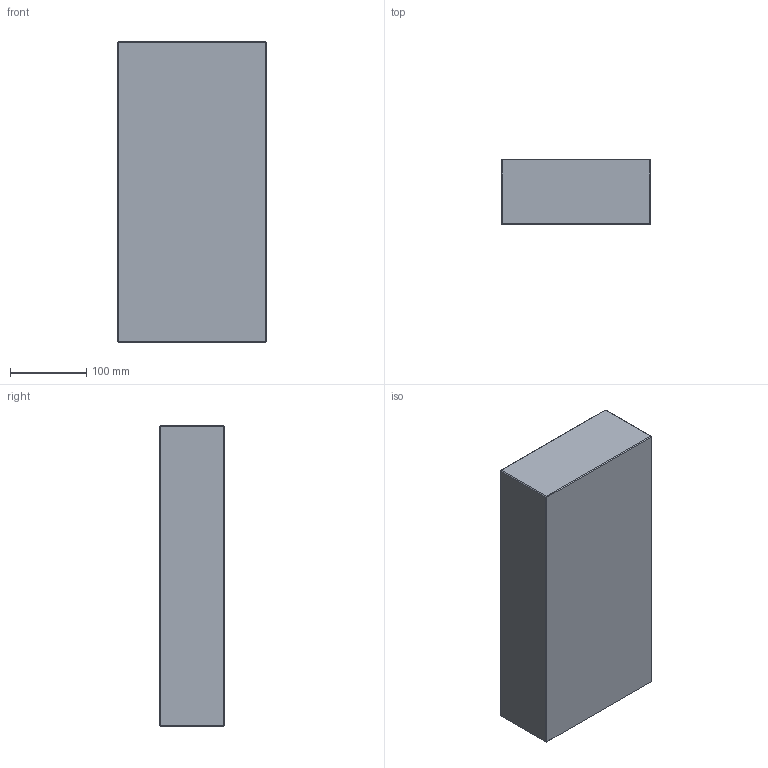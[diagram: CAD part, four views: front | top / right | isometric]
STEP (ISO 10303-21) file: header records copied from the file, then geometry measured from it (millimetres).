
FILE_DESCRIPTION (( 'STEP AP214' ), '1' );
FILE_NAME ('PC-P-196x396x86.STEP', '2020-04-01T08:08:57', ( 'August' ), ( '' ), 'SwSTEP 2.0', 'SolidWorks 2018', '' );
FILE_SCHEMA (( 'AUTOMOTIVE_DESIGN' ));
Length unit declared in the file: millimetre
Products named in the file (1): PC-P-196x396x86
Bounding box: 196 x 86 x 396 mm (x, y, z)
Volume: 6673625.3 mm3; surface area: 255464.3 mm2
Topology: 1 solids, 1 shells, 26 faces, 48 edges, 24 vertices
Faces by surface type: plane 26
Entity records: 634 total; most frequent: DIRECTION 102, CARTESIAN_POINT 99, ORIENTED_EDGE 96, LINE 48, VECTOR 48, EDGE_CURVE 48, AXIS2_PLACEMENT_3D 27, FACE_OUTER_BOUND 26
